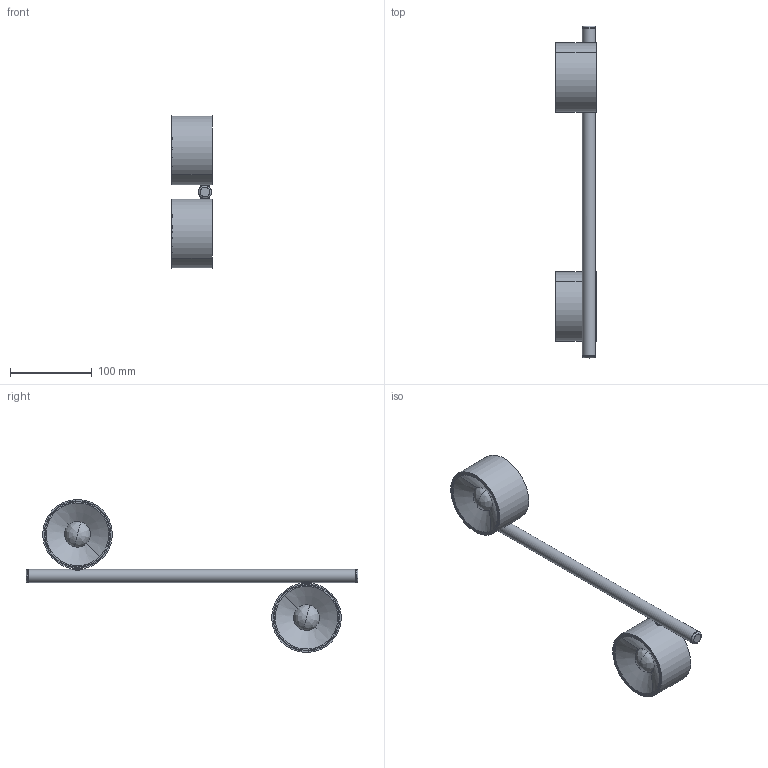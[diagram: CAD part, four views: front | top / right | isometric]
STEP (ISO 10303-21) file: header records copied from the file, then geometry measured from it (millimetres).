
FILE_DESCRIPTION((''),'2;1');
FILE_NAME('PR158_KALEO_COMPOSIZIONE_ASM','2026-02-24T11:53:29',('Bonardi'),(''),'CREO PARAMETRIC BY PTC INC, 2025010','CREO PARAMETRIC BY PTC INC, 2025010','');
FILE_SCHEMA(('CONFIG_CONTROL_DESIGN'));
Length unit declared in the file: millimetre
Products named in the file (8): ACTED80X; CMEF800G; CMPF800G; ACLF400W; RIF4000X; CMDF810G_8C_OLD; PR158_KALEO_ASM; PR158_KALEO_COMPOSIZIONE_ASM
Assembly tree (10 placements, depth 3):
  PR158_KALEO_COMPOSIZIONE_ASM
    ACTED80X  x2
    CMEF800G
    CMPF800G  x2
    PR158_KALEO_ASM  x2
      ACLF400W
      RIF4000X
      CMDF810G_8C_OLD
Bounding box: 50 x 406 x 186.68 mm (x, y, z)
Volume: 225464.3 mm3; surface area: 154235.7 mm2
Topology: 11 solids, 24 shells, 1312 faces, 3469 edges, 2206 vertices
Faces by surface type: bspline 760, torus 188, cylinder 141, plane 123, cone 98, sphere 2
Entity records: 28057 total; most frequent: CARTESIAN_POINT 13719, ORIENTED_EDGE 3514, DIRECTION 2299, EDGE_CURVE 1782, VERTEX_POINT 1139, AXIS2_PLACEMENT_3D 1038, B_SPLINE_CURVE_WITH_KNOTS 836, CIRCLE 723
